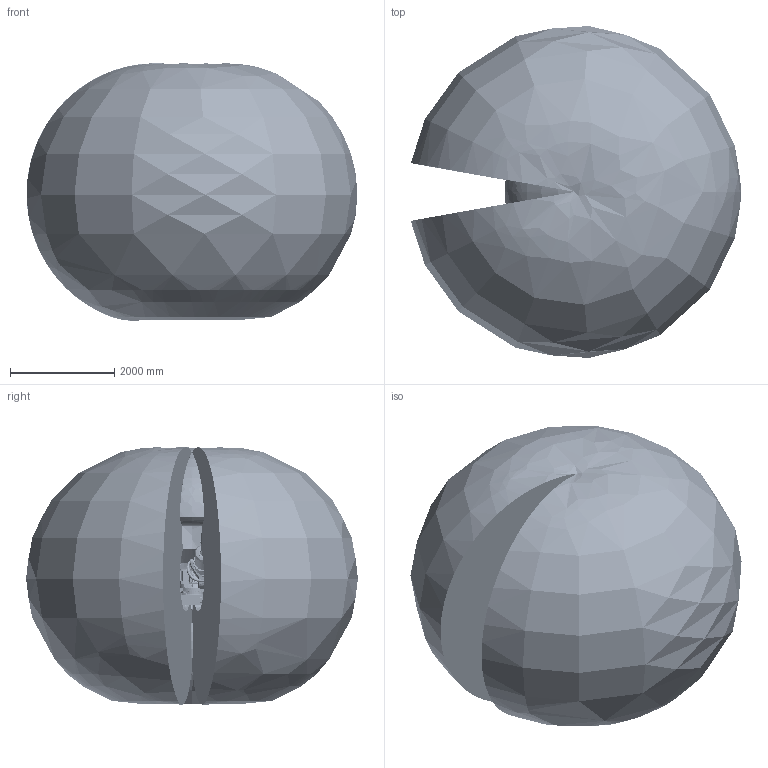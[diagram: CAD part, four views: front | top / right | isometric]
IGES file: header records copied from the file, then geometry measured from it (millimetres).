
Start section: SolidWorks IGES file using analytic representation for surfaces
Global section: file name: C:\Data\SAP_DOC\IRB6740_lightweight\6750S\IRB 6750S ASM\IRB6750S-LID-SW_270kg-320_OC_02_SW_J\IRB6750S-LID-SW_270kg-320_OC_02_IGES_J\IRB6750S-LID-SW_270kg-320_OC_02_ASM_CAD.igs; native system: SolidWorks 2024; preprocessor: SolidWorks 2024; author: SEJAOLS6; date: 260507.083950; units: millimetre
Bounding box: 6348.53 x 6373.35 x 4940.43 mm (x, y, z)
Surface area: 171404526.5 mm2 (no closed solid volume)
Topology: 0 solids, 0 shells, 10411 faces, 173960 edges, 173693 vertices
Faces by surface type: bspline 5888, revolution 4523
